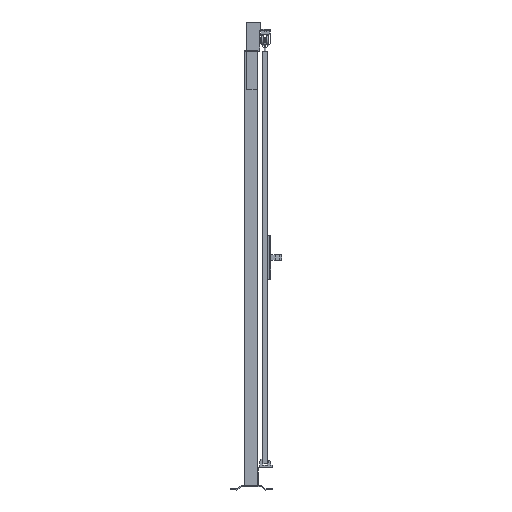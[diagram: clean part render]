
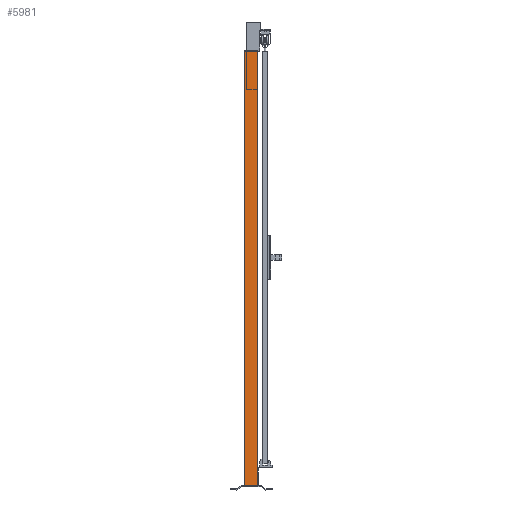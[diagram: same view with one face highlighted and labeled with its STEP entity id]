
A CAD part, left-side view. The second image highlights one B-rep face of the part: STEP entity #5981.
In plain terms, the highlighted planar face has unit normal (-1, 0, 0).
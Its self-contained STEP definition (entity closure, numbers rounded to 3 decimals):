
#567=FACE_OUTER_BOUND('',#987,.T.);
#987=EDGE_LOOP('',(#3644,#3645,#3646,#3647));
#1450=VERTEX_POINT('',#11966);
#1451=VERTEX_POINT('',#11968);
#1454=VERTEX_POINT('',#11975);
#1455=VERTEX_POINT('',#11977);
#2350=EDGE_CURVE('',#1450,#1451,#6805,.T.);
#2354=EDGE_CURVE('',#1454,#1455,#6809,.T.);
#2356=EDGE_CURVE('',#1451,#1454,#6811,.T.);
#2358=EDGE_CURVE('',#1450,#1455,#6813,.T.);
#3644=ORIENTED_EDGE('',*,*,#2358,.T.);
#3645=ORIENTED_EDGE('',*,*,#2354,.F.);
#3646=ORIENTED_EDGE('',*,*,#2356,.F.);
#3647=ORIENTED_EDGE('',*,*,#2350,.F.);
#5603=PLANE('',#8716);
#5981=ADVANCED_FACE('',(#567),#5603,.F.);
#6805=LINE('',#11969,#7812);
#6809=LINE('',#11978,#7816);
#6811=LINE('',#11981,#7818);
#6813=LINE('',#11984,#7820);
#7812=VECTOR('',#9558,1.);
#7816=VECTOR('',#9564,1.);
#7818=VECTOR('',#9568,1.);
#7820=VECTOR('',#9572,1.);
#8716=AXIS2_PLACEMENT_3D('',#11983,#9570,#9571);
#9558=DIRECTION('',(0.,-1.,0.));
#9564=DIRECTION('',(0.,1.,0.));
#9568=DIRECTION('',(0.,0.,-1.));
#9570=DIRECTION('center_axis',(1.,0.,0.));
#9571=DIRECTION('ref_axis',(0.,0.,-1.));
#9572=DIRECTION('',(0.,0.,-1.));
#11966=CARTESIAN_POINT('',(-30.,30.,2020.));
#11968=CARTESIAN_POINT('',(-30.,-30.,2020.));
#11969=CARTESIAN_POINT('',(-30.,0.,2020.));
#11975=CARTESIAN_POINT('',(-30.,-30.,20.));
#11977=CARTESIAN_POINT('',(-30.,30.,20.));
#11978=CARTESIAN_POINT('',(-30.,0.,20.));
#11981=CARTESIAN_POINT('',(-30.,-30.,1020.));
#11983=CARTESIAN_POINT('Origin',(-30.,0.,
1020.));
#11984=CARTESIAN_POINT('',(-30.,30.,1020.));
